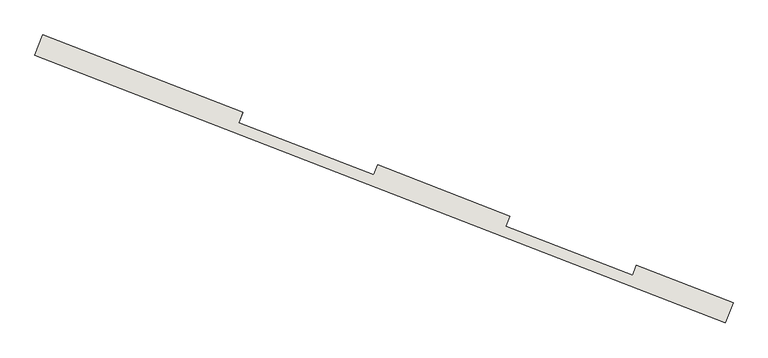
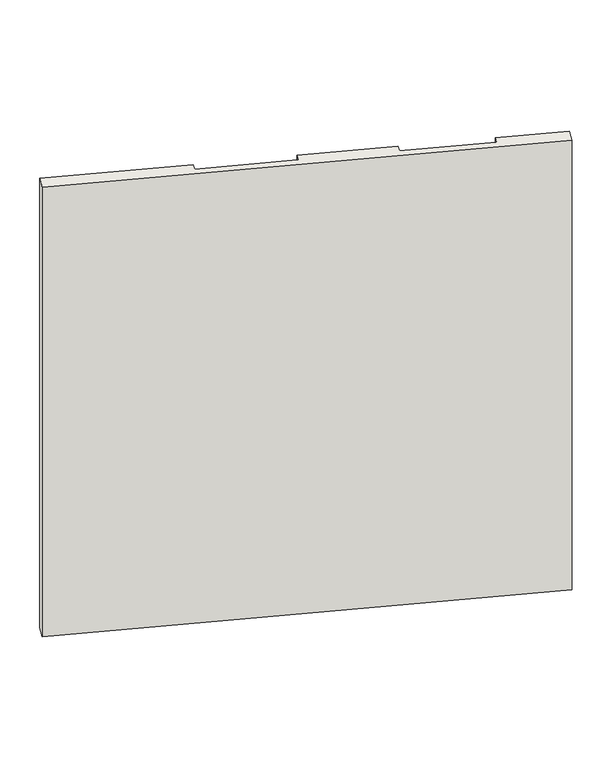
"""IFC4 building model written with IfcOpenShell, lengths in millimetres: wall geometry, kamposite11 : kamposite2."""

from ifc_helpers import new_model, si_unit, origin, place, context, project, spatial, faceted_brep, source, transform, mapped, element, save


def wall_394c6471(model_context):
    return source(origin(), model_context, "Body", "Brep", [
        faceted_brep([(-250.3748169, 15163.2898207, 2500.0), (-250.3748169, 15163.2898207, -1000.0), (2938.093022, 13926.3286894, -1000.0), (2938.093022, 13926.3286894, 2500.0), (-214.2063627, 15256.5198745, -1000.0), (-214.2063627, 15256.5198745, 2500.0), (709.2620227, 14898.2617529, 2500.0), (709.2620227, 14898.2617529, 1720.5733633), (-211.8999426, 15255.6251024, 1720.5733633), (-211.8999426, 15255.6251024, 1670.5733633), (709.2620227, 14898.2617529, 1670.5733633), (709.2620227, 14898.2617529, -38.4266367), (-211.8999426, 15255.6251024, -38.4266367), (-211.8999426, 15255.6251024, -88.4266367), (709.2620227, 14898.2617529, -88.4266367), (709.2620227, 14898.2617529, -1000.0), (2974.2614761, 14019.5587432, 2500.0), (2974.2614761, 14019.5587432, 1720.5733633), (2528.06193, 14192.661162, 1720.5733633), (2528.06193, 14192.661162, 2500.0), (2974.2614761, 14019.5587432, -88.4266367), (2974.2614761, 14019.5587432, -1000.0), (2528.06193, 14192.661162, -1000.0), (2528.06193, 14192.661162, -88.4266367), (2974.2614761, 14019.5587432, 1670.5733633), (2974.2614761, 14019.5587432, -38.4266367), (2528.06193, 14192.661162, -38.4266367), (2528.06193, 14192.661162, 1670.5733633), (1333.1327149, 14656.2320897, 2500.0), (1942.8904543, 14419.6775245, 2500.0), (1942.8904543, 14419.6775245, 1720.5733633), (1333.1327149, 14656.2320897, 1720.5733633), (1333.1327149, 14656.2320897, 1670.5733633), (1942.8904543, 14419.6775245, 1670.5733633), (1942.8904543, 14419.6775245, -38.4266367), (1333.1327149, 14656.2320897, -38.4266367), (1333.1327149, 14656.2320897, -88.4266367), (1942.8904543, 14419.6775245, -88.4266367), (1942.8904543, 14419.6775245, -1000.0), (1333.1327149, 14656.2320897, -1000.0), (691.1777956, 14851.646726, -1000.0), (1315.0484878, 14609.6170628, -1000.0), (1924.8062272, 14373.0624976, -1000.0), (2509.977703, 14146.0461351, -1000.0), (2956.1772491, 13972.9437163, -88.4266367), (2956.1772491, 13972.9437163, -38.4266367), (2956.1772491, 13972.9437163, 1670.5733633), (2956.1772491, 13972.9437163, 1720.5733633), (2509.977703, 14146.0461351, 2500.0), (1924.8062272, 14373.0624976, 2500.0), (1315.0484878, 14609.6170628, 2500.0), (691.1777956, 14851.646726, 2500.0), (-229.9841696, 15209.0100755, 1670.5733633), (-229.9841696, 15209.0100755, 1720.5733633), (691.1777956, 14851.646726, 1720.5733633), (1315.0484878, 14609.6170628, 1720.5733633), (1924.8062272, 14373.0624976, 1720.5733633), (2509.977703, 14146.0461351, 1720.5733633), (2509.977703, 14146.0461351, 1670.5733633), (2509.977703, 14146.0461351, -38.4266367), (2509.977703, 14146.0461351, -88.4266367), (1924.8062272, 14373.0624976, -88.4266367), (1315.0484878, 14609.6170628, -88.4266367), (691.1777956, 14851.646726, -88.4266367), (-229.9841696, 15209.0100755, -88.4266367), (-229.9841696, 15209.0100755, -38.4266367), (691.1777956, 14851.646726, -38.4266367), (691.1777956, 14851.646726, 1670.5733633), (1924.8062272, 14373.0624976, 1670.5733633), (1315.0484878, 14609.6170628, 1670.5733633), (1315.0484878, 14609.6170628, -38.4266367), (1924.8062272, 14373.0624976, -38.4266367)], [[[0, 1, 2, 3]], [[4, 5, 6, 7, 8, 9, 10, 11, 12, 13, 14, 15]], [[16, 17, 18, 19]], [[20, 21, 22, 23]], [[24, 25, 26, 27]], [[28, 29, 30, 31]], [[32, 33, 34, 35]], [[36, 37, 38, 39]], [[1, 0, 5, 4]], [[2, 1, 4, 15, 40, 41, 39, 38, 42, 43, 22, 21]], [[3, 2, 21, 20, 44, 45, 25, 24, 46, 47, 17, 16]], [[0, 3, 16, 19, 48, 49, 29, 28, 50, 51, 6, 5]], [[52, 53, 54, 51, 50, 55, 56, 49, 48, 57, 47, 46, 58, 59, 45, 44, 60, 43, 42, 61, 62, 41, 40, 63, 64, 65, 66, 67], [68, 69, 70, 71]], [[53, 52, 9, 8]], [[33, 32, 69, 68]], [[46, 24, 27, 58]], [[9, 52, 67, 10]], [[31, 30, 56, 55]], [[17, 47, 57, 18]], [[53, 8, 7, 54]], [[65, 64, 13, 12]], [[37, 36, 62, 61]], [[44, 20, 23, 60]], [[13, 64, 63, 14]], [[35, 34, 71, 70]], [[25, 45, 59, 26]], [[65, 12, 11, 66]], [[49, 56, 30, 29]], [[61, 42, 38, 37]], [[68, 71, 34, 33]], [[57, 48, 19, 18]], [[59, 58, 27, 26]], [[43, 60, 23, 22]], [[51, 54, 7, 6]], [[63, 40, 15, 14]], [[67, 66, 11, 10]], [[55, 50, 28, 31]], [[41, 62, 36, 39]], [[70, 69, 32, 35]]]),
    ])


if __name__ == "__main__":
    model = new_model("IFC4")
    model_context = context("Model", 3, world=origin())
    ifc_project = project(units=[si_unit("LENGTHUNIT", "METRE", prefix="MILLI")], contexts=[model_context])
    site = spatial("IfcSite", under=ifc_project)
    building = spatial("IfcBuilding", under=site)
    placement = place(None, origin())
    wall_shape = wall_394c6471(model_context)
    element("IfcWall", 1, ObjectType="kamposite11 : kamposite2", at=placement, inside=building, context=model_context, shape_type="MappedRepresentation", body=[
        mapped(wall_shape, transform((0.0, 0.0, 0.0), x_axis=(1.0, 0.0, 0.0), y_axis=(0.0, 1.0, 0.0), z_axis=(0.0, 0.0, 1.0))),
    ])
    save(model, "model.ifc")
